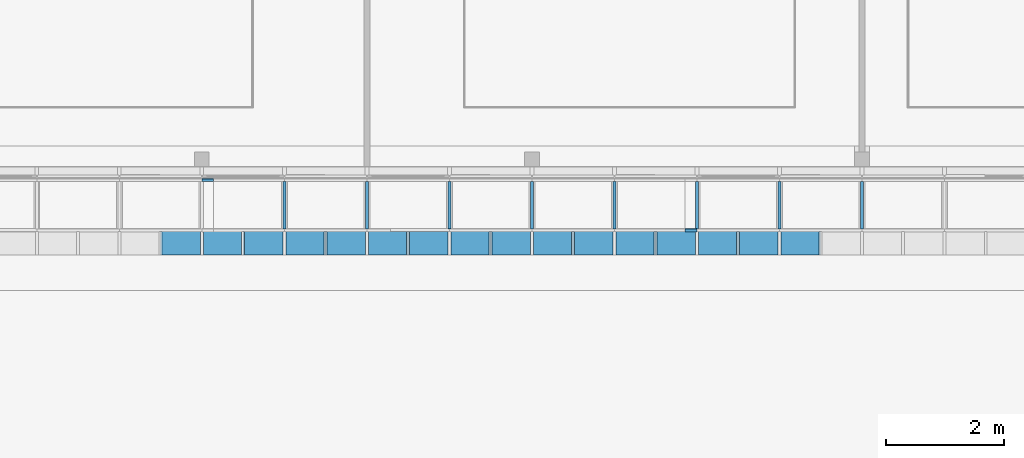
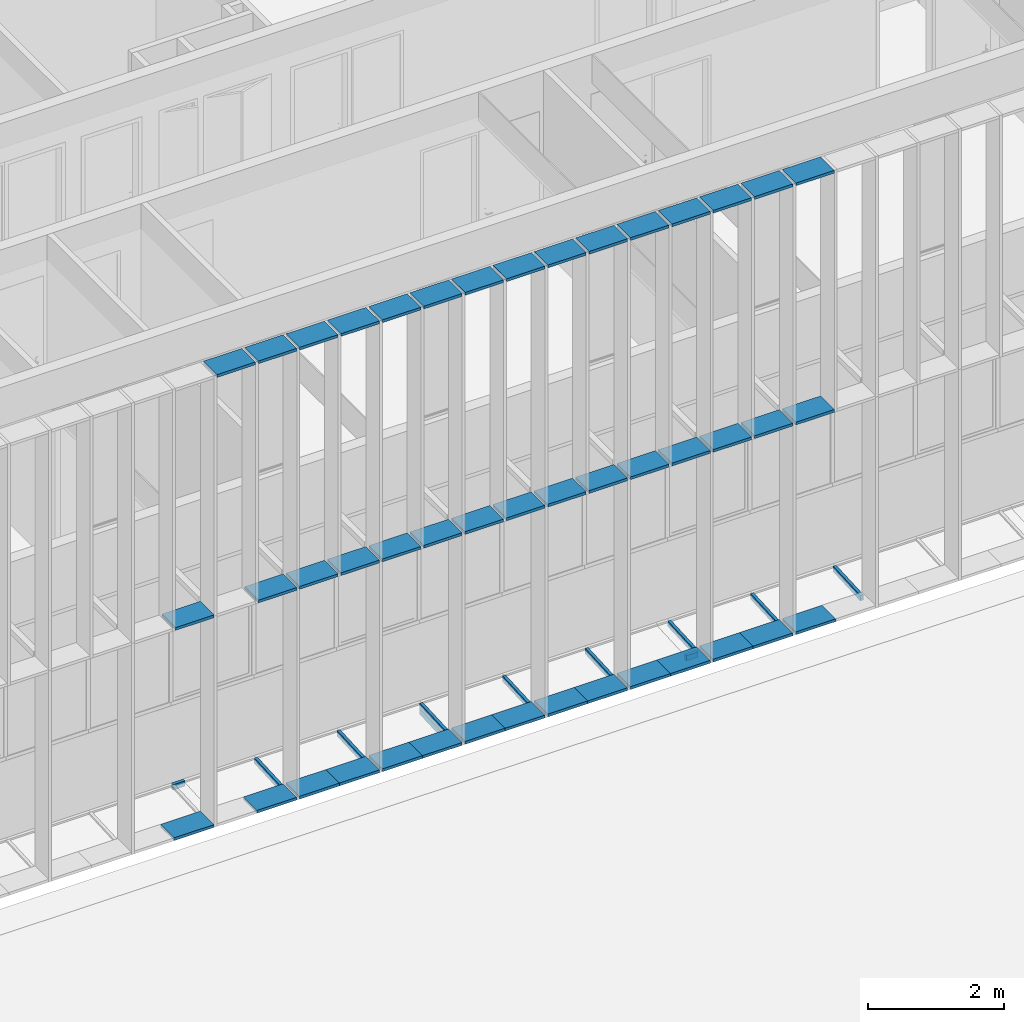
# One storey, part 21 of 106: 56 members, 2 elements without a shape of their own.
"""IFC2X3 building model written with IfcOpenShell, lengths in centimetres."""

from ifc_helpers import new_model, entity, si_unit, converted_unit, derived_unit, direction, frame, origin, origin_2d_with_axis, place, context, subcontext, project, spatial, rectangle, extrude, source, transform, mapped, material, type_object, type_shapes, element, aggregate, save


model = new_model("IFC2X3")

# Units and contexts
model_context = context("Model", 3, precision=0.001, world=origin(), true_north=direction((6.12303176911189e-17, 1.0)))
body_context = subcontext(model_context, "Body", "Model", "MODEL_VIEW")
ifc_project = project(units=[si_unit("LENGTHUNIT", "METRE", prefix="CENTI"), si_unit("AREAUNIT", "SQUARE_METRE"), si_unit("VOLUMEUNIT", "CUBIC_METRE"), converted_unit("PLANEANGLEUNIT", "DEGREE", entity("IfcRatioMeasure", 0.0174532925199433), si_unit("PLANEANGLEUNIT", "RADIAN"), dimensions=[0, 0, 0, 0, 0, 0, 0]), si_unit("MASSUNIT", "GRAM", prefix="KILO"), derived_unit("MASSDENSITYUNIT", [(si_unit("MASSUNIT", "GRAM", prefix="KILO"), 1), (si_unit("LENGTHUNIT", "METRE"), -3)]), si_unit("TIMEUNIT", "SECOND"), si_unit("FREQUENCYUNIT", "HERTZ"), si_unit("THERMODYNAMICTEMPERATUREUNIT", "DEGREE_CELSIUS"), derived_unit("THERMALTRANSMITTANCEUNIT", [(si_unit("MASSUNIT", "GRAM", prefix="KILO"), 1), (si_unit("THERMODYNAMICTEMPERATUREUNIT", "KELVIN"), -1), (si_unit("TIMEUNIT", "SECOND"), -3)]), derived_unit("VOLUMETRICFLOWRATEUNIT", [(si_unit("LENGTHUNIT", "METRE"), 3), (si_unit("TIMEUNIT", "SECOND"), -1)]), si_unit("ELECTRICCURRENTUNIT", "AMPERE"), si_unit("ELECTRICVOLTAGEUNIT", "VOLT"), si_unit("POWERUNIT", "WATT"), si_unit("FORCEUNIT", "NEWTON", prefix="KILO"), si_unit("ILLUMINANCEUNIT", "LUX"), si_unit("LUMINOUSFLUXUNIT", "LUMEN"), si_unit("LUMINOUSINTENSITYUNIT", "CANDELA"), derived_unit("USERDEFINED", [(si_unit("MASSUNIT", "GRAM", prefix="KILO"), -1), (si_unit("LENGTHUNIT", "METRE"), -2), (si_unit("TIMEUNIT", "SECOND"), 3), (si_unit("LUMINOUSFLUXUNIT", "LUMEN"), 1)]), derived_unit("LINEARVELOCITYUNIT", [(si_unit("LENGTHUNIT", "METRE"), 1), (si_unit("TIMEUNIT", "SECOND"), -1)]), si_unit("PRESSUREUNIT", "PASCAL"), derived_unit("USERDEFINED", [(si_unit("LENGTHUNIT", "METRE"), -2), (si_unit("MASSUNIT", "GRAM", prefix="KILO"), 1), (si_unit("TIMEUNIT", "SECOND"), -2)])], contexts=[model_context])

# Site, building, storey
site_placement = place(None, frame((-2781.94577612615, 7442.24238424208, 0.0)))
site = spatial("IfcSite", under=ifc_project, at=site_placement, Name="Default", CompositionType="ELEMENT")
building_placement = place(site_placement, origin())
building = spatial("IfcBuilding", under=site, at=building_placement, CompositionType="ELEMENT")
storey_placement = place(building_placement, frame((0.0, 0.0, 422.0)))
storey = spatial("IfcBuildingStorey", under=building, at=storey_placement, Name="Toiture - Cuisine", CompositionType="ELEMENT", Elevation=421.999999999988)

# Roof, members
curtain_wall_type_1 = type_object("IfcCurtainWallType", Name="Vitres inclinées:Toit en verre 1 m x 2 m", PredefinedType="NOTDEFINED")
roof_placement = place(building_placement, origin())
roof = element("IfcRoof", 1, at=roof_placement, inside=storey, type_object=curtain_wall_type_1, Name="Vitres inclinées:Toit en verre 1 m x 2 m", ObjectType="Vitres inclinées:Toit en verre 1 m x 2 m", ShapeType="NOTDEFINED")
ifc_material_1 = material(Name="Plastique, blanc opaque")
member_type_1 = type_object("IfcMemberType", Name="100 x 50mm", PredefinedType="MEMBER")
shared_shape_1 = source(origin(), body_context, "Body", "SweptSolid", [
    extrude(rectangle(XDim=10.0, YDim=5.0, at=origin_2d_with_axis()), frame((-2.5, 0.0, -20.0001640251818), z_axis=(0.0, 0.0, 1.0), x_axis=(0.0, -1.0, 0.0)), (0.0, 0.0, 1.0), 20.0001640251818),
])
type_shapes(member_type_1, [shared_shape_1])
member_1_placement = place(building_placement, frame((-7429.49987763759, -1950.34071342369, 362.709847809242), z_axis=(-1.0, 0.0, 0.0), x_axis=(0.0, 0.998629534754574, 0.0523359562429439)))
member_1 = element("IfcMember", 2, at=member_1_placement, type_object=member_type_1, material=ifc_material_1, Name="Meneau rectangulaire:100 x 50mm", ObjectType="Meneau rectangulaire:100 x 50mm", context=body_context, shape_type="MappedRepresentation", body=[
    mapped(shared_shape_1, transform((0.0, 0.0, 0.0), scale=1.0)),
])
member_type_2 = type_object("IfcMemberType", Name="100 x 50mm", PredefinedType="MEMBER")
shared_shape_2 = source(origin(), body_context, "Body", "SweptSolid", [
    extrude(rectangle(XDim=10.0, YDim=5.0, at=origin_2d_with_axis()), frame((-2.5, 0.0, -20.0), z_axis=(0.0, 0.0, 1.0), x_axis=(0.0, -1.0, 0.0)), (0.0, 0.0, 1.0), 20.000000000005),
])
type_shapes(member_type_2, [shared_shape_2])
member_2_placement = place(building_placement, frame((-6589.50004166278, -2040.34071342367, 357.99314767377), z_axis=(1.0, 0.0, 0.0), x_axis=(0.0, -0.998629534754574, -0.0523359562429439)))
member_2 = element("IfcMember", 3, at=member_2_placement, type_object=member_type_2, material=ifc_material_1, Name="Meneau rectangulaire:100 x 50mm", ObjectType="Meneau rectangulaire:100 x 50mm", context=body_context, shape_type="MappedRepresentation", body=[
    mapped(shared_shape_2, transform((0.0, 0.0, 0.0), scale=1.0)),
])
member_type_3 = type_object("IfcMemberType", Name="100 x 50mm", PredefinedType="MEMBER")
shared_shape_3 = source(origin(), body_context, "Body", "SweptSolid", [
    extrude(rectangle(XDim=10.0, YDim=5.0, at=origin_2d_with_axis()), frame((0.0, 0.0, -80.1235111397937), z_axis=(0.0, 0.0, 1.0), x_axis=(0.0, -1.0, 0.0)), (0.0, 0.0, 1.0), 80.1235111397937),
])
type_shapes(member_type_3, [shared_shape_3])
member_3_placement = place(building_placement, frame((-7289.49987763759, -1955.33386109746, 362.448168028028), z_axis=(0.0, 0.998629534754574, 0.0523359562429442), x_axis=(1.0, 0.0, 0.0)))
member_3 = element("IfcMember", 4, at=member_3_placement, type_object=member_type_3, material=ifc_material_1, Name="Meneau rectangulaire:100 x 50mm", ObjectType="Meneau rectangulaire:100 x 50mm", context=body_context, shape_type="MappedRepresentation", body=[
    mapped(shared_shape_3, transform((0.0, 0.0, 0.0), scale=1.0)),
])
member_4_placement = place(building_placement, frame((-7149.49987763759, -1955.33386109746, 362.448168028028), z_axis=(0.0, 0.998629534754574, 0.0523359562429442), x_axis=(1.0, 0.0, 0.0)))
member_4 = element("IfcMember", 5, at=member_4_placement, type_object=member_type_3, material=ifc_material_1, Name="Meneau rectangulaire:100 x 50mm", ObjectType="Meneau rectangulaire:100 x 50mm", context=body_context, shape_type="MappedRepresentation", body=[
    mapped(shared_shape_3, transform((0.0, 0.0, 0.0), scale=1.0)),
])
member_5_placement = place(building_placement, frame((-7009.49987763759, -1955.07218131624, 352.455020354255), z_axis=(0.0, 0.998629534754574, 0.0523359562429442), x_axis=(1.0, 0.0, 0.0)))
member_5 = element("IfcMember", 6, at=member_5_placement, type_object=member_type_3, material=ifc_material_1, Name="Meneau rectangulaire:100 x 50mm", ObjectType="Meneau rectangulaire:100 x 50mm", context=body_context, shape_type="MappedRepresentation", body=[
    mapped(shared_shape_3, transform((0.0, 0.0, 0.0), scale=1.0)),
])
member_6_placement = place(building_placement, frame((-7009.49987763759, -1955.33386109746, 362.448168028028), z_axis=(0.0, 0.998629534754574, 0.0523359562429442), x_axis=(1.0, 0.0, 0.0)))
member_6 = element("IfcMember", 7, at=member_6_placement, type_object=member_type_3, material=ifc_material_1, Name="Meneau rectangulaire:100 x 50mm", ObjectType="Meneau rectangulaire:100 x 50mm", context=body_context, shape_type="MappedRepresentation", body=[
    mapped(shared_shape_3, transform((0.0, 0.0, 0.0), scale=1.0)),
])
member_7_placement = place(building_placement, frame((-6869.49987763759, -1955.33386109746, 362.448168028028), z_axis=(0.0, 0.998629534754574, 0.0523359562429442), x_axis=(1.0, 0.0, 0.0)))
member_7 = element("IfcMember", 8, at=member_7_placement, type_object=member_type_3, material=ifc_material_1, Name="Meneau rectangulaire:100 x 50mm", ObjectType="Meneau rectangulaire:100 x 50mm", context=body_context, shape_type="MappedRepresentation", body=[
    mapped(shared_shape_3, transform((0.0, 0.0, 0.0), scale=1.0)),
])
member_8_placement = place(building_placement, frame((-6729.49987763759, -1955.33386109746, 362.448168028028), z_axis=(0.0, 0.998629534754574, 0.0523359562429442), x_axis=(1.0, 0.0, 0.0)))
member_8 = element("IfcMember", 9, at=member_8_placement, type_object=member_type_3, material=ifc_material_1, Name="Meneau rectangulaire:100 x 50mm", ObjectType="Meneau rectangulaire:100 x 50mm", context=body_context, shape_type="MappedRepresentation", body=[
    mapped(shared_shape_3, transform((0.0, 0.0, 0.0), scale=1.0)),
])
member_9_placement = place(building_placement, frame((-6589.50004166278, -1955.33386109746, 362.448168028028), z_axis=(0.0, 0.998629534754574, 0.0523359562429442), x_axis=(1.0, 0.0, 0.0)))
member_9 = element("IfcMember", 10, at=member_9_placement, type_object=member_type_3, material=ifc_material_1, Name="Meneau rectangulaire:100 x 50mm", ObjectType="Meneau rectangulaire:100 x 50mm", context=body_context, shape_type="MappedRepresentation", body=[
    mapped(shared_shape_3, transform((0.0, 0.0, 0.0), scale=1.0)),
])
member_10_placement = place(building_placement, frame((-6449.50004166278, -1955.33386109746, 362.448168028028), z_axis=(0.0, 0.998629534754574, 0.0523359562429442), x_axis=(1.0, 0.0, 0.0)))
member_10 = element("IfcMember", 11, at=member_10_placement, type_object=member_type_3, material=ifc_material_1, Name="Meneau rectangulaire:100 x 50mm", ObjectType="Meneau rectangulaire:100 x 50mm", context=body_context, shape_type="MappedRepresentation", body=[
    mapped(shared_shape_3, transform((0.0, 0.0, 0.0), scale=1.0)),
])
member_11_placement = place(building_placement, frame((-6309.50004166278, -1955.33386109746, 362.448168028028), z_axis=(0.0, 0.998629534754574, 0.0523359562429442), x_axis=(1.0, 0.0, 0.0)))
member_11 = element("IfcMember", 12, at=member_11_placement, type_object=member_type_3, material=ifc_material_1, Name="Meneau rectangulaire:100 x 50mm", ObjectType="Meneau rectangulaire:100 x 50mm", context=body_context, shape_type="MappedRepresentation", body=[
    mapped(shared_shape_3, transform((0.0, 0.0, 0.0), scale=1.0)),
])
aggregate(roof, [member_1, member_2, member_3, member_4, member_5, member_6, member_7, member_8, member_9, member_10, member_11])

# Curtain wall, members
curtain_wall_type_2 = type_object("IfcCurtainWallType", Name="Mur-rideau:Epines - 400x30mm", PredefinedType="NOTDEFINED")
curtain_wall_placement = place(building_placement, origin())
curtain_wall = element("IfcCurtainWall", 13, at=curtain_wall_placement, inside=storey, type_object=curtain_wall_type_2, Name="Mur-rideau:Epines - 400x30mm", ObjectType="Mur-rideau:Epines - 400x30mm")
ifc_material_2 = material(Name="Aluminium")
member_type_4 = type_object("IfcMemberType", Name="Epine sud (400x50 mm)", PredefinedType="MEMBER")
shared_shape_4 = source(origin(), body_context, "Body", "SweptSolid", [
    extrude(rectangle(XDim=40.0, YDim=5.0, at=origin_2d_with_axis()), frame((-2.5, 0.0, -65.0), z_axis=(0.0, 0.0, 1.0), x_axis=(0.0, -1.0, 0.0)), (0.0, 0.0, 1.0), 64.9999999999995),
])
type_shapes(member_type_4, [shared_shape_4])
member_12_placement = place(building_placement, frame((-7011.99987763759, -2060.07903364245, 1176.0), z_axis=(1.0, 0.0, 0.0), x_axis=(0.0, 0.0, 1.0)))
member_12 = element("IfcMember", 14, at=member_12_placement, type_object=member_type_4, material=ifc_material_2, Name="Meneau rectangulaire:Epine sud (400x50 mm)", ObjectType="Meneau rectangulaire:Epine sud (400x50 mm)", context=body_context, shape_type="MappedRepresentation", body=[
    mapped(shared_shape_4, transform((0.0, 0.0, 0.0), scale=1.0)),
])
member_13_placement = place(building_placement, frame((-6871.99987763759, -2060.07903364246, 1176.0), z_axis=(1.0, 0.0, 0.0), x_axis=(0.0, 0.0, 1.0)))
member_13 = element("IfcMember", 15, at=member_13_placement, type_object=member_type_4, material=ifc_material_2, Name="Meneau rectangulaire:Epine sud (400x50 mm)", ObjectType="Meneau rectangulaire:Epine sud (400x50 mm)", context=body_context, shape_type="MappedRepresentation", body=[
    mapped(shared_shape_4, transform((0.0, 0.0, 0.0), scale=1.0)),
])
member_14_placement = place(building_placement, frame((-6731.99987763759, -2060.07903364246, 1176.0), z_axis=(1.0, 0.0, 0.0), x_axis=(0.0, 0.0, 1.0)))
member_14 = element("IfcMember", 16, at=member_14_placement, type_object=member_type_4, material=ifc_material_2, Name="Meneau rectangulaire:Epine sud (400x50 mm)", ObjectType="Meneau rectangulaire:Epine sud (400x50 mm)", context=body_context, shape_type="MappedRepresentation", body=[
    mapped(shared_shape_4, transform((0.0, 0.0, 0.0), scale=1.0)),
])
member_15_placement = place(building_placement, frame((-6591.99987763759, -2060.07903364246, 1176.0), z_axis=(1.0, 0.0, 0.0), x_axis=(0.0, 0.0, 1.0)))
member_15 = element("IfcMember", 17, at=member_15_placement, type_object=member_type_4, material=ifc_material_2, Name="Meneau rectangulaire:Epine sud (400x50 mm)", ObjectType="Meneau rectangulaire:Epine sud (400x50 mm)", context=body_context, shape_type="MappedRepresentation", body=[
    mapped(shared_shape_4, transform((0.0, 0.0, 0.0), scale=1.0)),
])
member_16_placement = place(building_placement, frame((-6451.99987763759, -2060.07903364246, 1176.0), z_axis=(1.0, 0.0, 0.0), x_axis=(0.0, 0.0, 1.0)))
member_16 = element("IfcMember", 18, at=member_16_placement, type_object=member_type_4, material=ifc_material_2, Name="Meneau rectangulaire:Epine sud (400x50 mm)", ObjectType="Meneau rectangulaire:Epine sud (400x50 mm)", context=body_context, shape_type="MappedRepresentation", body=[
    mapped(shared_shape_4, transform((0.0, 0.0, 0.0), scale=1.0)),
])
member_17_placement = place(building_placement, frame((-7291.99987763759, -2060.07903364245, 1176.0), z_axis=(1.0, 0.0, 0.0), x_axis=(0.0, 0.0, 1.0)))
member_17 = element("IfcMember", 19, at=member_17_placement, type_object=member_type_4, material=ifc_material_2, Name="Meneau rectangulaire:Epine sud (400x50 mm)", ObjectType="Meneau rectangulaire:Epine sud (400x50 mm)", context=body_context, shape_type="MappedRepresentation", body=[
    mapped(shared_shape_4, transform((0.0, 0.0, 0.0), scale=1.0)),
])
member_18_placement = place(building_placement, frame((-7151.99987763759, -2060.07903364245, 1176.0), z_axis=(1.0, 0.0, 0.0), x_axis=(0.0, 0.0, 1.0)))
member_18 = element("IfcMember", 20, at=member_18_placement, type_object=member_type_4, material=ifc_material_2, Name="Meneau rectangulaire:Epine sud (400x50 mm)", ObjectType="Meneau rectangulaire:Epine sud (400x50 mm)", context=body_context, shape_type="MappedRepresentation", body=[
    mapped(shared_shape_4, transform((0.0, 0.0, 0.0), scale=1.0)),
])
member_19_placement = place(building_placement, frame((-7361.99987763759, -2060.07903364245, 1176.0), z_axis=(1.0, 0.0, 0.0), x_axis=(0.0, 0.0, 1.0)))
member_19 = element("IfcMember", 21, at=member_19_placement, type_object=member_type_4, material=ifc_material_2, Name="Meneau rectangulaire:Epine sud (400x50 mm)", ObjectType="Meneau rectangulaire:Epine sud (400x50 mm)", context=body_context, shape_type="MappedRepresentation", body=[
    mapped(shared_shape_4, transform((0.0, 0.0, 0.0), scale=1.0)),
])
member_20_placement = place(building_placement, frame((-7221.99987763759, -2060.07903364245, 1176.0), z_axis=(1.0, 0.0, 0.0), x_axis=(0.0, 0.0, 1.0)))
member_20 = element("IfcMember", 22, at=member_20_placement, type_object=member_type_4, material=ifc_material_2, Name="Meneau rectangulaire:Epine sud (400x50 mm)", ObjectType="Meneau rectangulaire:Epine sud (400x50 mm)", context=body_context, shape_type="MappedRepresentation", body=[
    mapped(shared_shape_4, transform((0.0, 0.0, 0.0), scale=1.0)),
])
member_21_placement = place(building_placement, frame((-7081.99987763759, -2060.07903364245, 1176.0), z_axis=(1.0, 0.0, 0.0), x_axis=(0.0, 0.0, 1.0)))
member_21 = element("IfcMember", 23, at=member_21_placement, type_object=member_type_4, material=ifc_material_2, Name="Meneau rectangulaire:Epine sud (400x50 mm)", ObjectType="Meneau rectangulaire:Epine sud (400x50 mm)", context=body_context, shape_type="MappedRepresentation", body=[
    mapped(shared_shape_4, transform((0.0, 0.0, 0.0), scale=1.0)),
])
member_22_placement = place(building_placement, frame((-6941.99987763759, -2060.07903364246, 1176.0), z_axis=(1.0, 0.0, 0.0), x_axis=(0.0, 0.0, 1.0)))
member_22 = element("IfcMember", 24, at=member_22_placement, type_object=member_type_4, material=ifc_material_2, Name="Meneau rectangulaire:Epine sud (400x50 mm)", ObjectType="Meneau rectangulaire:Epine sud (400x50 mm)", context=body_context, shape_type="MappedRepresentation", body=[
    mapped(shared_shape_4, transform((0.0, 0.0, 0.0), scale=1.0)),
])
member_23_placement = place(building_placement, frame((-6801.99987763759, -2060.07903364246, 1176.0), z_axis=(1.0, 0.0, 0.0), x_axis=(0.0, 0.0, 1.0)))
member_23 = element("IfcMember", 25, at=member_23_placement, type_object=member_type_4, material=ifc_material_2, Name="Meneau rectangulaire:Epine sud (400x50 mm)", ObjectType="Meneau rectangulaire:Epine sud (400x50 mm)", context=body_context, shape_type="MappedRepresentation", body=[
    mapped(shared_shape_4, transform((0.0, 0.0, 0.0), scale=1.0)),
])
member_24_placement = place(building_placement, frame((-6661.99987763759, -2060.07903364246, 1176.0), z_axis=(1.0, 0.0, 0.0), x_axis=(0.0, 0.0, 1.0)))
member_24 = element("IfcMember", 26, at=member_24_placement, type_object=member_type_4, material=ifc_material_2, Name="Meneau rectangulaire:Epine sud (400x50 mm)", ObjectType="Meneau rectangulaire:Epine sud (400x50 mm)", context=body_context, shape_type="MappedRepresentation", body=[
    mapped(shared_shape_4, transform((0.0, 0.0, 0.0), scale=1.0)),
])
member_25_placement = place(building_placement, frame((-6521.99987763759, -2060.07903364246, 1176.0), z_axis=(1.0, 0.0, 0.0), x_axis=(0.0, 0.0, 1.0)))
member_25 = element("IfcMember", 27, at=member_25_placement, type_object=member_type_4, material=ifc_material_2, Name="Meneau rectangulaire:Epine sud (400x50 mm)", ObjectType="Meneau rectangulaire:Epine sud (400x50 mm)", context=body_context, shape_type="MappedRepresentation", body=[
    mapped(shared_shape_4, transform((0.0, 0.0, 0.0), scale=1.0)),
])
member_26_placement = place(building_placement, frame((-6381.99987763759, -2060.07903364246, 1176.0), z_axis=(1.0, 0.0, 0.0), x_axis=(0.0, 0.0, 1.0)))
member_26 = element("IfcMember", 28, at=member_26_placement, type_object=member_type_4, material=ifc_material_2, Name="Meneau rectangulaire:Epine sud (400x50 mm)", ObjectType="Meneau rectangulaire:Epine sud (400x50 mm)", context=body_context, shape_type="MappedRepresentation", body=[
    mapped(shared_shape_4, transform((0.0, 0.0, 0.0), scale=1.0)),
])
member_type_5 = type_object("IfcMemberType", Name="Epine sud (400x50 mm)", PredefinedType="MEMBER")
shared_shape_5 = source(origin(), body_context, "Body", "SweptSolid", [
    extrude(rectangle(XDim=40.0, YDim=5.0, at=origin_2d_with_axis()), frame((-2.5, 0.0, -67.4999999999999), z_axis=(0.0, 0.0, 1.0), x_axis=(0.0, -1.0, 0.0)), (0.0, 0.0, 1.0), 67.5000000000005),
])
type_shapes(member_type_5, [shared_shape_5])
member_27_placement = place(building_placement, frame((-7006.99987763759, -2060.07903364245, 367.449291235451), z_axis=(-1.0, 0.0, 0.0), x_axis=(0.0, 0.0, -1.0)))
member_27 = element("IfcMember", 29, at=member_27_placement, type_object=member_type_5, material=ifc_material_2, Name="Meneau rectangulaire:Epine sud (400x50 mm)", ObjectType="Meneau rectangulaire:Epine sud (400x50 mm)", context=body_context, shape_type="MappedRepresentation", body=[
    mapped(shared_shape_5, transform((0.0, 0.0, 0.0), scale=1.0)),
])
member_28_placement = place(building_placement, frame((-6866.99987763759, -2060.07903364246, 367.449291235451), z_axis=(-1.0, 0.0, 0.0), x_axis=(0.0, 0.0, -1.0)))
member_28 = element("IfcMember", 30, at=member_28_placement, type_object=member_type_5, material=ifc_material_2, Name="Meneau rectangulaire:Epine sud (400x50 mm)", ObjectType="Meneau rectangulaire:Epine sud (400x50 mm)", context=body_context, shape_type="MappedRepresentation", body=[
    mapped(shared_shape_5, transform((0.0, 0.0, 0.0), scale=1.0)),
])
member_29_placement = place(building_placement, frame((-6726.99987763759, -2060.07903364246, 367.449291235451), z_axis=(-1.0, 0.0, 0.0), x_axis=(0.0, 0.0, -1.0)))
member_29 = element("IfcMember", 31, at=member_29_placement, type_object=member_type_5, material=ifc_material_2, Name="Meneau rectangulaire:Epine sud (400x50 mm)", ObjectType="Meneau rectangulaire:Epine sud (400x50 mm)", context=body_context, shape_type="MappedRepresentation", body=[
    mapped(shared_shape_5, transform((0.0, 0.0, 0.0), scale=1.0)),
])
member_30_placement = place(building_placement, frame((-6586.99987763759, -2060.07903364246, 367.449291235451), z_axis=(-1.0, 0.0, 0.0), x_axis=(0.0, 0.0, -1.0)))
member_30 = element("IfcMember", 32, at=member_30_placement, type_object=member_type_5, material=ifc_material_2, Name="Meneau rectangulaire:Epine sud (400x50 mm)", ObjectType="Meneau rectangulaire:Epine sud (400x50 mm)", context=body_context, shape_type="MappedRepresentation", body=[
    mapped(shared_shape_5, transform((0.0, 0.0, 0.0), scale=1.0)),
])
member_31_placement = place(building_placement, frame((-6446.99987763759, -2060.07903364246, 367.449291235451), z_axis=(-1.0, 0.0, 0.0), x_axis=(0.0, 0.0, -1.0)))
member_31 = element("IfcMember", 33, at=member_31_placement, type_object=member_type_5, material=ifc_material_2, Name="Meneau rectangulaire:Epine sud (400x50 mm)", ObjectType="Meneau rectangulaire:Epine sud (400x50 mm)", context=body_context, shape_type="MappedRepresentation", body=[
    mapped(shared_shape_5, transform((0.0, 0.0, 0.0), scale=1.0)),
])
member_32_placement = place(building_placement, frame((-7286.99987763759, -2060.07903364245, 367.449291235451), z_axis=(-1.0, 0.0, 0.0), x_axis=(0.0, 0.0, -1.0)))
member_32 = element("IfcMember", 34, at=member_32_placement, type_object=member_type_5, material=ifc_material_2, Name="Meneau rectangulaire:Epine sud (400x50 mm)", ObjectType="Meneau rectangulaire:Epine sud (400x50 mm)", context=body_context, shape_type="MappedRepresentation", body=[
    mapped(shared_shape_5, transform((0.0, 0.0, 0.0), scale=1.0)),
])
member_33_placement = place(building_placement, frame((-7146.99987763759, -2060.07903364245, 367.449291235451), z_axis=(-1.0, 0.0, 0.0), x_axis=(0.0, 0.0, -1.0)))
member_33 = element("IfcMember", 35, at=member_33_placement, type_object=member_type_5, material=ifc_material_2, Name="Meneau rectangulaire:Epine sud (400x50 mm)", ObjectType="Meneau rectangulaire:Epine sud (400x50 mm)", context=body_context, shape_type="MappedRepresentation", body=[
    mapped(shared_shape_5, transform((0.0, 0.0, 0.0), scale=1.0)),
])
member_type_6 = type_object("IfcMemberType", Name="Epine sud (400x50 mm)", PredefinedType="MEMBER")
shared_shape_6 = source(origin(), body_context, "Body", "SweptSolid", [
    extrude(rectangle(XDim=40.0, YDim=5.0, at=origin_2d_with_axis()), frame((0.0, 0.0, -65.0), z_axis=(0.0, 0.0, 1.0), x_axis=(0.0, -1.0, 0.0)), (0.0, 0.0, 1.0), 65.0000000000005),
])
type_shapes(member_type_6, [shared_shape_6])
member_34_placement = place(building_placement, frame((-6941.99987763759, -2060.07903364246, 745.4), z_axis=(1.0, 0.0, 0.0), x_axis=(0.0, 0.0, 1.0)))
member_34 = element("IfcMember", 36, at=member_34_placement, type_object=member_type_6, material=ifc_material_2, Name="Meneau rectangulaire:Epine sud (400x50 mm)", ObjectType="Meneau rectangulaire:Epine sud (400x50 mm)", context=body_context, shape_type="MappedRepresentation", body=[
    mapped(shared_shape_6, transform((0.0, 0.0, 0.0), scale=1.0)),
])
member_35_placement = place(building_placement, frame((-6801.99987763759, -2060.07903364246, 745.4), z_axis=(1.0, 0.0, 0.0), x_axis=(0.0, 0.0, 1.0)))
member_35 = element("IfcMember", 37, at=member_35_placement, type_object=member_type_6, material=ifc_material_2, Name="Meneau rectangulaire:Epine sud (400x50 mm)", ObjectType="Meneau rectangulaire:Epine sud (400x50 mm)", context=body_context, shape_type="MappedRepresentation", body=[
    mapped(shared_shape_6, transform((0.0, 0.0, 0.0), scale=1.0)),
])
member_36_placement = place(building_placement, frame((-6661.99987763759, -2060.07903364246, 745.4), z_axis=(1.0, 0.0, 0.0), x_axis=(0.0, 0.0, 1.0)))
member_36 = element("IfcMember", 38, at=member_36_placement, type_object=member_type_6, material=ifc_material_2, Name="Meneau rectangulaire:Epine sud (400x50 mm)", ObjectType="Meneau rectangulaire:Epine sud (400x50 mm)", context=body_context, shape_type="MappedRepresentation", body=[
    mapped(shared_shape_6, transform((0.0, 0.0, 0.0), scale=1.0)),
])
member_37_placement = place(building_placement, frame((-6521.99987763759, -2060.07903364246, 745.4), z_axis=(1.0, 0.0, 0.0), x_axis=(0.0, 0.0, 1.0)))
member_37 = element("IfcMember", 39, at=member_37_placement, type_object=member_type_6, material=ifc_material_2, Name="Meneau rectangulaire:Epine sud (400x50 mm)", ObjectType="Meneau rectangulaire:Epine sud (400x50 mm)", context=body_context, shape_type="MappedRepresentation", body=[
    mapped(shared_shape_6, transform((0.0, 0.0, 0.0), scale=1.0)),
])
member_38_placement = place(building_placement, frame((-6381.99987763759, -2060.07903364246, 745.4), z_axis=(1.0, 0.0, 0.0), x_axis=(0.0, 0.0, 1.0)))
member_38 = element("IfcMember", 40, at=member_38_placement, type_object=member_type_6, material=ifc_material_2, Name="Meneau rectangulaire:Epine sud (400x50 mm)", ObjectType="Meneau rectangulaire:Epine sud (400x50 mm)", context=body_context, shape_type="MappedRepresentation", body=[
    mapped(shared_shape_6, transform((0.0, 0.0, 0.0), scale=1.0)),
])
member_39_placement = place(building_placement, frame((-7221.99987763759, -2060.07903364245, 745.4), z_axis=(1.0, 0.0, 0.0), x_axis=(0.0, 0.0, 1.0)))
member_39 = element("IfcMember", 41, at=member_39_placement, type_object=member_type_6, material=ifc_material_2, Name="Meneau rectangulaire:Epine sud (400x50 mm)", ObjectType="Meneau rectangulaire:Epine sud (400x50 mm)", context=body_context, shape_type="MappedRepresentation", body=[
    mapped(shared_shape_6, transform((0.0, 0.0, 0.0), scale=1.0)),
])
member_40_placement = place(building_placement, frame((-7081.99987763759, -2060.07903364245, 745.4), z_axis=(1.0, 0.0, 0.0), x_axis=(0.0, 0.0, 1.0)))
member_40 = element("IfcMember", 42, at=member_40_placement, type_object=member_type_6, material=ifc_material_2, Name="Meneau rectangulaire:Epine sud (400x50 mm)", ObjectType="Meneau rectangulaire:Epine sud (400x50 mm)", context=body_context, shape_type="MappedRepresentation", body=[
    mapped(shared_shape_6, transform((0.0, 0.0, 0.0), scale=1.0)),
])
member_41_placement = place(building_placement, frame((-7431.99987763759, -2060.07903364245, 745.4), z_axis=(1.0, 0.0, 0.0), x_axis=(0.0, 0.0, 1.0)))
member_41 = element("IfcMember", 43, at=member_41_placement, type_object=member_type_6, material=ifc_material_2, Name="Meneau rectangulaire:Epine sud (400x50 mm)", ObjectType="Meneau rectangulaire:Epine sud (400x50 mm)", context=body_context, shape_type="MappedRepresentation", body=[
    mapped(shared_shape_6, transform((0.0, 0.0, 0.0), scale=1.0)),
])
member_42_placement = place(building_placement, frame((-7291.99987763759, -2060.07903364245, 745.4), z_axis=(1.0, 0.0, 0.0), x_axis=(0.0, 0.0, 1.0)))
member_42 = element("IfcMember", 44, at=member_42_placement, type_object=member_type_6, material=ifc_material_2, Name="Meneau rectangulaire:Epine sud (400x50 mm)", ObjectType="Meneau rectangulaire:Epine sud (400x50 mm)", context=body_context, shape_type="MappedRepresentation", body=[
    mapped(shared_shape_6, transform((0.0, 0.0, 0.0), scale=1.0)),
])
member_43_placement = place(building_placement, frame((-7151.99987763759, -2060.07903364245, 745.4), z_axis=(1.0, 0.0, 0.0), x_axis=(0.0, 0.0, 1.0)))
member_43 = element("IfcMember", 45, at=member_43_placement, type_object=member_type_6, material=ifc_material_2, Name="Meneau rectangulaire:Epine sud (400x50 mm)", ObjectType="Meneau rectangulaire:Epine sud (400x50 mm)", context=body_context, shape_type="MappedRepresentation", body=[
    mapped(shared_shape_6, transform((0.0, 0.0, 0.0), scale=1.0)),
])
member_44_placement = place(building_placement, frame((-7011.99987763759, -2060.07903364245, 745.4), z_axis=(1.0, 0.0, 0.0), x_axis=(0.0, 0.0, 1.0)))
member_44 = element("IfcMember", 46, at=member_44_placement, type_object=member_type_6, material=ifc_material_2, Name="Meneau rectangulaire:Epine sud (400x50 mm)", ObjectType="Meneau rectangulaire:Epine sud (400x50 mm)", context=body_context, shape_type="MappedRepresentation", body=[
    mapped(shared_shape_6, transform((0.0, 0.0, 0.0), scale=1.0)),
])
member_45_placement = place(building_placement, frame((-6871.99987763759, -2060.07903364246, 745.4), z_axis=(1.0, 0.0, 0.0), x_axis=(0.0, 0.0, 1.0)))
member_45 = element("IfcMember", 47, at=member_45_placement, type_object=member_type_6, material=ifc_material_2, Name="Meneau rectangulaire:Epine sud (400x50 mm)", ObjectType="Meneau rectangulaire:Epine sud (400x50 mm)", context=body_context, shape_type="MappedRepresentation", body=[
    mapped(shared_shape_6, transform((0.0, 0.0, 0.0), scale=1.0)),
])
member_46_placement = place(building_placement, frame((-6731.99987763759, -2060.07903364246, 745.4), z_axis=(1.0, 0.0, 0.0), x_axis=(0.0, 0.0, 1.0)))
member_46 = element("IfcMember", 48, at=member_46_placement, type_object=member_type_6, material=ifc_material_2, Name="Meneau rectangulaire:Epine sud (400x50 mm)", ObjectType="Meneau rectangulaire:Epine sud (400x50 mm)", context=body_context, shape_type="MappedRepresentation", body=[
    mapped(shared_shape_6, transform((0.0, 0.0, 0.0), scale=1.0)),
])
member_47_placement = place(building_placement, frame((-6591.99987763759, -2060.07903364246, 745.4), z_axis=(1.0, 0.0, 0.0), x_axis=(0.0, 0.0, 1.0)))
member_47 = element("IfcMember", 49, at=member_47_placement, type_object=member_type_6, material=ifc_material_2, Name="Meneau rectangulaire:Epine sud (400x50 mm)", ObjectType="Meneau rectangulaire:Epine sud (400x50 mm)", context=body_context, shape_type="MappedRepresentation", body=[
    mapped(shared_shape_6, transform((0.0, 0.0, 0.0), scale=1.0)),
])
member_48_placement = place(building_placement, frame((-6451.99987763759, -2060.07903364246, 745.4), z_axis=(1.0, 0.0, 0.0), x_axis=(0.0, 0.0, 1.0)))
member_48 = element("IfcMember", 50, at=member_48_placement, type_object=member_type_6, material=ifc_material_2, Name="Meneau rectangulaire:Epine sud (400x50 mm)", ObjectType="Meneau rectangulaire:Epine sud (400x50 mm)", context=body_context, shape_type="MappedRepresentation", body=[
    mapped(shared_shape_6, transform((0.0, 0.0, 0.0), scale=1.0)),
])
member_type_7 = type_object("IfcMemberType", Name="Epine sud (400x50 mm)", PredefinedType="MEMBER")
shared_shape_7 = source(origin(), body_context, "Body", "SweptSolid", [
    extrude(rectangle(XDim=40.0, YDim=5.0, at=origin_2d_with_axis()), frame((-2.5, 0.0, -67.4999999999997), z_axis=(0.0, 0.0, 1.0), x_axis=(0.0, -1.0, 0.0)), (0.0, 0.0, 1.0), 67.4999999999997),
])
type_shapes(member_type_7, [shared_shape_7])
member_49_placement = place(building_placement, frame((-7499.49987763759, -2060.07903364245, 367.449291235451), z_axis=(-1.0, 0.0, 0.0), x_axis=(0.0, 0.0, -1.0)))
member_49 = element("IfcMember", 51, at=member_49_placement, type_object=member_type_7, material=ifc_material_2, Name="Meneau rectangulaire:Epine sud (400x50 mm)", ObjectType="Meneau rectangulaire:Epine sud (400x50 mm)", context=body_context, shape_type="MappedRepresentation", body=[
    mapped(shared_shape_7, transform((0.0, 0.0, 0.0), scale=1.0)),
])
member_50_placement = place(building_placement, frame((-7359.49987763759, -2060.07903364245, 367.449291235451), z_axis=(-1.0, 0.0, 0.0), x_axis=(0.0, 0.0, -1.0)))
member_50 = element("IfcMember", 52, at=member_50_placement, type_object=member_type_7, material=ifc_material_2, Name="Meneau rectangulaire:Epine sud (400x50 mm)", ObjectType="Meneau rectangulaire:Epine sud (400x50 mm)", context=body_context, shape_type="MappedRepresentation", body=[
    mapped(shared_shape_7, transform((0.0, 0.0, 0.0), scale=1.0)),
])
member_51_placement = place(building_placement, frame((-7219.49987763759, -2060.07903364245, 367.449291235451), z_axis=(-1.0, 0.0, 0.0), x_axis=(0.0, 0.0, -1.0)))
member_51 = element("IfcMember", 53, at=member_51_placement, type_object=member_type_7, material=ifc_material_2, Name="Meneau rectangulaire:Epine sud (400x50 mm)", ObjectType="Meneau rectangulaire:Epine sud (400x50 mm)", context=body_context, shape_type="MappedRepresentation", body=[
    mapped(shared_shape_7, transform((0.0, 0.0, 0.0), scale=1.0)),
])
member_52_placement = place(building_placement, frame((-7079.49987763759, -2060.07903364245, 367.449291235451), z_axis=(-1.0, 0.0, 0.0), x_axis=(0.0, 0.0, -1.0)))
member_52 = element("IfcMember", 54, at=member_52_placement, type_object=member_type_7, material=ifc_material_2, Name="Meneau rectangulaire:Epine sud (400x50 mm)", ObjectType="Meneau rectangulaire:Epine sud (400x50 mm)", context=body_context, shape_type="MappedRepresentation", body=[
    mapped(shared_shape_7, transform((0.0, 0.0, 0.0), scale=1.0)),
])
member_53_placement = place(building_placement, frame((-6939.49987763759, -2060.07903364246, 367.449291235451), z_axis=(-1.0, 0.0, 0.0), x_axis=(0.0, 0.0, -1.0)))
member_53 = element("IfcMember", 55, at=member_53_placement, type_object=member_type_7, material=ifc_material_2, Name="Meneau rectangulaire:Epine sud (400x50 mm)", ObjectType="Meneau rectangulaire:Epine sud (400x50 mm)", context=body_context, shape_type="MappedRepresentation", body=[
    mapped(shared_shape_7, transform((0.0, 0.0, 0.0), scale=1.0)),
])
member_54_placement = place(building_placement, frame((-6799.49987763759, -2060.07903364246, 367.449291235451), z_axis=(-1.0, 0.0, 0.0), x_axis=(0.0, 0.0, -1.0)))
member_54 = element("IfcMember", 56, at=member_54_placement, type_object=member_type_7, material=ifc_material_2, Name="Meneau rectangulaire:Epine sud (400x50 mm)", ObjectType="Meneau rectangulaire:Epine sud (400x50 mm)", context=body_context, shape_type="MappedRepresentation", body=[
    mapped(shared_shape_7, transform((0.0, 0.0, 0.0), scale=1.0)),
])
member_55_placement = place(building_placement, frame((-6659.49987763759, -2060.07903364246, 367.449291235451), z_axis=(-1.0, 0.0, 0.0), x_axis=(0.0, 0.0, -1.0)))
member_55 = element("IfcMember", 57, at=member_55_placement, type_object=member_type_7, material=ifc_material_2, Name="Meneau rectangulaire:Epine sud (400x50 mm)", ObjectType="Meneau rectangulaire:Epine sud (400x50 mm)", context=body_context, shape_type="MappedRepresentation", body=[
    mapped(shared_shape_7, transform((0.0, 0.0, 0.0), scale=1.0)),
])
member_56_placement = place(building_placement, frame((-6519.49987763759, -2060.07903364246, 367.449291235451), z_axis=(-1.0, 0.0, 0.0), x_axis=(0.0, 0.0, -1.0)))
member_56 = element("IfcMember", 58, at=member_56_placement, type_object=member_type_7, material=ifc_material_2, Name="Meneau rectangulaire:Epine sud (400x50 mm)", ObjectType="Meneau rectangulaire:Epine sud (400x50 mm)", context=body_context, shape_type="MappedRepresentation", body=[
    mapped(shared_shape_7, transform((0.0, 0.0, 0.0), scale=1.0)),
])
aggregate(curtain_wall, [member_12, member_27, member_13, member_28, member_34, member_35, member_14, member_29, member_36, member_15, member_30, member_37, member_16, member_31, member_38, member_17, member_32, member_39, member_18, member_33, member_40, member_49, member_41, member_19, member_50, member_42, member_20, member_51, member_43, member_21, member_52, member_44, member_22, member_53, member_45, member_23, member_54, member_46, member_24, member_55, member_47, member_25, member_56, member_48, member_26])

save(model, "model.ifc")
